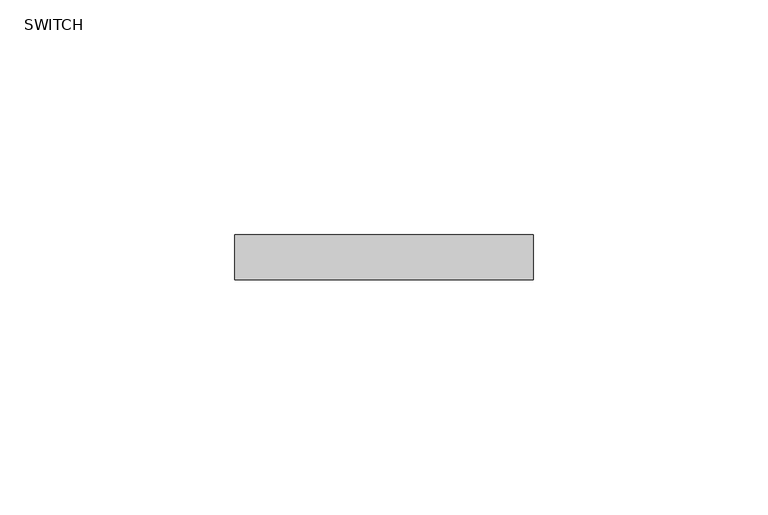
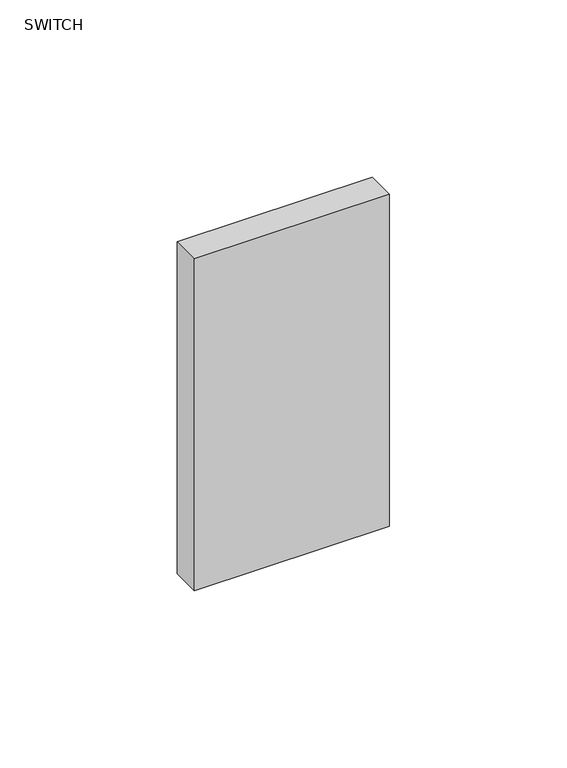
"""IFC4 building model written with IfcOpenShell, lengths in millimetres: proxy geometry, MAVRIK - ELEC - RECEPTACLE - WALL BASED : SWITCH."""

from ifc_helpers import new_model, si_unit, frame, origin, place, context, project, spatial, polyline, outline, extrude, source, transform, mapped, element, save


def switch_6976cb85(model_context):
    return source(origin(), model_context, "Body", "SweptSolid", [
        extrude(outline(polyline([(51.59375, 44.45), (-11.90625, 44.45), (-11.90625, 53.975), (51.59375, 53.975), (51.59375, 44.45)])), frame((0.0, 0.0, 400.05), z_axis=(0.0, 0.0, 1.0), x_axis=(1.0, 0.0, 0.0)), (0.0, 0.0, 1.0), 114.3),
    ])


if __name__ == "__main__":
    model = new_model("IFC4")
    model_context = context("Model", 3, world=origin())
    ifc_project = project(units=[si_unit("LENGTHUNIT", "METRE", prefix="MILLI")], contexts=[model_context])
    site = spatial("IfcSite", under=ifc_project)
    building = spatial("IfcBuilding", under=site)
    placement = place(None, origin())
    switch_shape = switch_6976cb85(model_context)
    element("IfcBuildingElementProxy", 1, Name="MAVRIK - ELEC - RECEPTACLE - WALL BASED : SWITCH", ObjectType="MAVRIK - ELEC - RECEPTACLE - WALL BASED : SWITCH", at=placement, inside=building, context=model_context, shape_type="MappedRepresentation", body=[
        mapped(switch_shape, transform((0.0, 0.0, 0.0), x_axis=(1.0, 0.0, 0.0), y_axis=(0.0, 1.0, 0.0), z_axis=(0.0, 0.0, 1.0))),
    ])
    save(model, "model.ifc")
